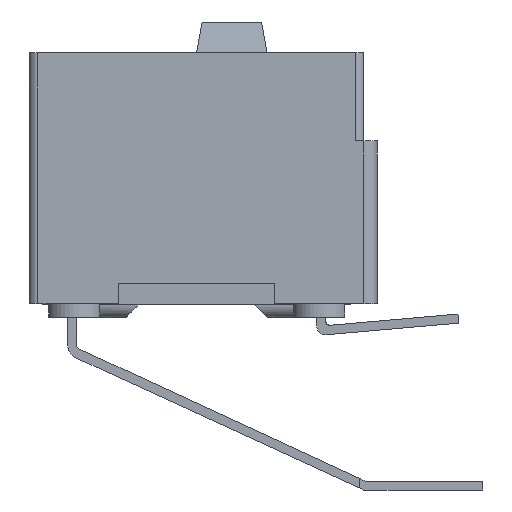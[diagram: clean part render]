
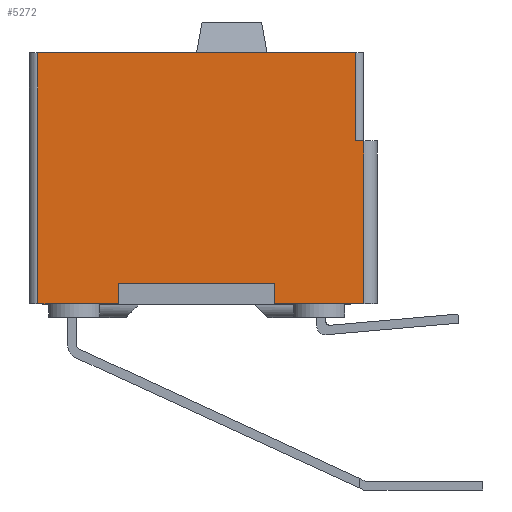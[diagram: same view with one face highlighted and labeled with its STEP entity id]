
A CAD part, left-side view. The second image highlights one B-rep face of the part: STEP entity #5272.
In plain terms, the highlighted planar face has unit normal (-1, 0, 0).
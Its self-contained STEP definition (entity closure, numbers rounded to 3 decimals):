
#60 = ORIENTED_EDGE ( 'NONE', *, *, #25798, .T. ) ;
#1402 = VERTEX_POINT ( 'NONE', #21568 ) ;
#1890 = LINE ( 'NONE', #4775, #28449 ) ;
#2198 = CARTESIAN_POINT ( 'NONE',  ( 0., -0.25, -7.239 ) ) ;
#2240 = ORIENTED_EDGE ( 'NONE', *, *, #7221, .T. ) ;
#2754 = AXIS2_PLACEMENT_3D ( 'NONE', #18036, #30391, #27824 ) ;
#3190 = EDGE_CURVE ( 'NONE', #26467, #9322, #20966, .T. ) ;
#3236 = VECTOR ( 'NONE', #18255, 1000. ) ;
#3932 = VECTOR ( 'NONE', #8174, 1000. ) ;
#4775 = CARTESIAN_POINT ( 'NONE',  ( 0., -9.652, -2.54 ) ) ;
#5170 = CARTESIAN_POINT ( 'NONE',  ( 0., -2.576, -6.639 ) ) ;
#5272 = ADVANCED_FACE ( 'NONE', ( #20590 ), #8270, .T. ) ;
#5412 = CARTESIAN_POINT ( 'NONE',  ( 0., -0.25, 0. ) ) ;
#7027 = DIRECTION ( 'NONE',  ( 0., -1., 0. ) ) ;
#7173 = VERTEX_POINT ( 'NONE', #30598 ) ;
#7221 = EDGE_CURVE ( 'NONE', #14353, #26467, #20794, .T. ) ;
#7425 = VECTOR ( 'NONE', #8070, 1000. ) ;
#7549 = DIRECTION ( 'NONE',  ( 0., 1., 0. ) ) ;
#7977 = EDGE_CURVE ( 'NONE', #1402, #17262, #24229, .T. ) ;
#7982 = CARTESIAN_POINT ( 'NONE',  ( 0., -0.25, 0. ) ) ;
#8070 = DIRECTION ( 'NONE',  ( 0., 0., 1. ) ) ;
#8174 = DIRECTION ( 'NONE',  ( 0., 1., 0. ) ) ;
#8270 = PLANE ( 'NONE',  #2754 ) ;
#8532 = ORIENTED_EDGE ( 'NONE', *, *, #25498, .F. ) ;
#8808 = CARTESIAN_POINT ( 'NONE',  ( 0., -0.25, -7.239 ) ) ;
#9219 = VECTOR ( 'NONE', #14754, 1000. ) ;
#9322 = VERTEX_POINT ( 'NONE', #18986 ) ;
#9511 = VECTOR ( 'NONE', #24822, 1000. ) ;
#9947 = CARTESIAN_POINT ( 'NONE',  ( 0., -9.402, -2.54 ) ) ;
#10048 = ORIENTED_EDGE ( 'NONE', *, *, #14568, .T. ) ;
#11956 = ORIENTED_EDGE ( 'NONE', *, *, #25551, .F. ) ;
#12066 = VERTEX_POINT ( 'NONE', #31666 ) ;
#12117 = VECTOR ( 'NONE', #13173, 1000. ) ;
#13173 = DIRECTION ( 'NONE',  ( 0., 0., -1. ) ) ;
#13284 = ORIENTED_EDGE ( 'NONE', *, *, #25447, .T. ) ;
#13295 = DIRECTION ( 'NONE',  ( 0., -1., 0. ) ) ;
#13336 = VECTOR ( 'NONE', #13295, 1000. ) ;
#14327 = EDGE_CURVE ( 'NONE', #24500, #22876, #29046, .T. ) ;
#14353 = VERTEX_POINT ( 'NONE', #26795 ) ;
#14386 = LINE ( 'NONE', #2198, #29994 ) ;
#14535 = EDGE_CURVE ( 'NONE', #22876, #12066, #20645, .T. ) ;
#14568 = EDGE_CURVE ( 'NONE', #17753, #15460, #30298, .T. ) ;
#14754 = DIRECTION ( 'NONE',  ( 0., 0., 1. ) ) ;
#15182 = LINE ( 'NONE', #7982, #9511 ) ;
#15211 = ORIENTED_EDGE ( 'NONE', *, *, #3190, .T. ) ;
#15460 = VERTEX_POINT ( 'NONE', #9947 ) ;
#15734 = CARTESIAN_POINT ( 'NONE',  ( 0., -7.076, -6.639 ) ) ;
#16483 = CARTESIAN_POINT ( 'NONE',  ( 0., -0.25, -7.239 ) ) ;
#16708 = VECTOR ( 'NONE', #7549, 1000. ) ;
#16937 = VECTOR ( 'NONE', #27549, 1000. ) ;
#17262 = VERTEX_POINT ( 'NONE', #5412 ) ;
#17752 = VECTOR ( 'NONE', #22908, 1000. ) ;
#17753 = VERTEX_POINT ( 'NONE', #25258 ) ;
#17792 = ORIENTED_EDGE ( 'NONE', *, *, #7977, .F. ) ;
#18036 = CARTESIAN_POINT ( 'NONE',  ( 0., -0.25, -7.239 ) ) ;
#18255 = DIRECTION ( 'NONE',  ( 0., -1., 0. ) ) ;
#18387 = CARTESIAN_POINT ( 'NONE',  ( 0., -0.25, -7.239 ) ) ;
#18972 = CARTESIAN_POINT ( 'NONE',  ( 0., -9.402, -7.239 ) ) ;
#18986 = CARTESIAN_POINT ( 'NONE',  ( 0., -9.652, -7.239 ) ) ;
#19520 = VERTEX_POINT ( 'NONE', #26243 ) ;
#20590 = FACE_OUTER_BOUND ( 'NONE', #20935, .T. ) ;
#20645 = LINE ( 'NONE', #30138, #17752 ) ;
#20794 = LINE ( 'NONE', #18387, #16937 ) ;
#20935 = EDGE_LOOP ( 'NONE', ( #27496, #25799, #23465, #2240, #15211, #8532, #10048, #60, #11956, #17792, #13284, #29830 ) ) ;
#20966 = LINE ( 'NONE', #8808, #3236 ) ;
#21078 = CARTESIAN_POINT ( 'NONE',  ( 0., -8.357, -7.239 ) ) ;
#21395 = LINE ( 'NONE', #18972, #7425 ) ;
#21568 = CARTESIAN_POINT ( 'NONE',  ( 0., -0.25, -7.239 ) ) ;
#21774 = DIRECTION ( 'NONE',  ( 0., 0., -1. ) ) ;
#22109 = EDGE_CURVE ( 'NONE', #19520, #12066, #23408, .T. ) ;
#22326 = LINE ( 'NONE', #15734, #12117 ) ;
#22747 = CARTESIAN_POINT ( 'NONE',  ( 0., -9.402, -2.54 ) ) ;
#22876 = VERTEX_POINT ( 'NONE', #5170 ) ;
#22908 = DIRECTION ( 'NONE',  ( 0., 0., -1. ) ) ;
#23408 = LINE ( 'NONE', #16483, #13336 ) ;
#23465 = ORIENTED_EDGE ( 'NONE', *, *, #31667, .T. ) ;
#24229 = LINE ( 'NONE', #29054, #9219 ) ;
#24500 = VERTEX_POINT ( 'NONE', #26557 ) ;
#24822 = DIRECTION ( 'NONE',  ( 0., -1., 0. ) ) ;
#25258 = CARTESIAN_POINT ( 'NONE',  ( 0., -9.652, -2.54 ) ) ;
#25447 = EDGE_CURVE ( 'NONE', #1402, #19520, #14386, .T. ) ;
#25498 = EDGE_CURVE ( 'NONE', #17753, #9322, #1890, .T. ) ;
#25551 = EDGE_CURVE ( 'NONE', #17262, #7173, #15182, .T. ) ;
#25798 = EDGE_CURVE ( 'NONE', #15460, #7173, #21395, .T. ) ;
#25799 = ORIENTED_EDGE ( 'NONE', *, *, #14327, .F. ) ;
#26243 = CARTESIAN_POINT ( 'NONE',  ( 0., -1.295, -7.239 ) ) ;
#26467 = VERTEX_POINT ( 'NONE', #21078 ) ;
#26557 = CARTESIAN_POINT ( 'NONE',  ( 0., -7.076, -6.639 ) ) ;
#26795 = CARTESIAN_POINT ( 'NONE',  ( 0., -7.076, -7.239 ) ) ;
#27496 = ORIENTED_EDGE ( 'NONE', *, *, #14535, .F. ) ;
#27549 = DIRECTION ( 'NONE',  ( 0., -1., 0. ) ) ;
#27824 = DIRECTION ( 'NONE',  ( 0., -1., 0. ) ) ;
#28449 = VECTOR ( 'NONE', #21774, 1000. ) ;
#29046 = LINE ( 'NONE', #29528, #16708 ) ;
#29054 = CARTESIAN_POINT ( 'NONE',  ( 0., -0.25, -7.239 ) ) ;
#29528 = CARTESIAN_POINT ( 'NONE',  ( 0., -2.576, -6.639 ) ) ;
#29830 = ORIENTED_EDGE ( 'NONE', *, *, #22109, .T. ) ;
#29994 = VECTOR ( 'NONE', #7027, 1000. ) ;
#30138 = CARTESIAN_POINT ( 'NONE',  ( 0., -2.576, -6.639 ) ) ;
#30298 = LINE ( 'NONE', #22747, #3932 ) ;
#30391 = DIRECTION ( 'NONE',  ( -1., 0., 0. ) ) ;
#30598 = CARTESIAN_POINT ( 'NONE',  ( 0., -9.402, 0. ) ) ;
#31666 = CARTESIAN_POINT ( 'NONE',  ( 0., -2.576, -7.239 ) ) ;
#31667 = EDGE_CURVE ( 'NONE', #24500, #14353, #22326, .T. ) ;
